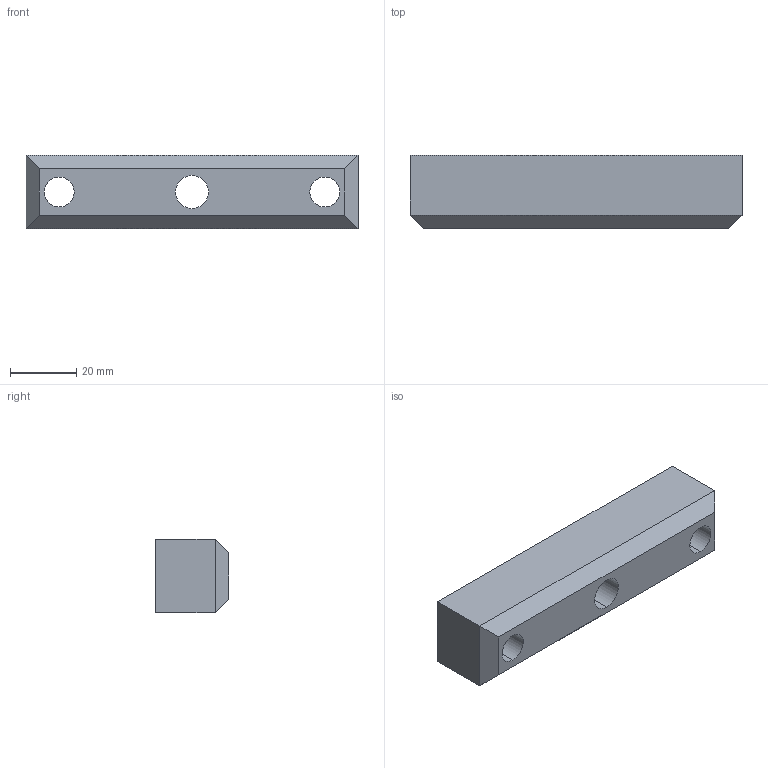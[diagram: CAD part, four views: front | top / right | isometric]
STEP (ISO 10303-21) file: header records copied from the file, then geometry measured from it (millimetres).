
FILE_DESCRIPTION(('CATIA V5 STEP Exchange'),'2;1');
FILE_NAME('C:\Users\Raffaele\Desktop\3D X SITO CF\761\GSB_OILLESS_M31705022100\STEP-2.03\761-022100.stp','2019-07-05T06:27:02+00:00',('none'),('none'),'CATIA Version 5 Release 20 GA (IN-10)','CATIA V5 STEP AP203','none');
FILE_SCHEMA(('CONFIG_CONTROL_DESIGN'));
Length unit declared in the file: millimetre
Products named in the file (1): 761-022100
Bounding box: 100 x 22 x 22 mm (x, y, z)
Volume: 38369.9 mm3; surface area: 11290.3 mm2
Topology: 1 solids, 1 shells, 25 faces, 80 edges, 60 vertices
Faces by surface type: plane 13, cylinder 12
Entity records: 1074 total; most frequent: CARTESIAN_POINT 316, ORIENTED_EDGE 160, DIRECTION 118, EDGE_CURVE 80, AXIS2_PLACEMENT_3D 62, VERTEX_POINT 60, CIRCLE 36, EDGE_LOOP 34
